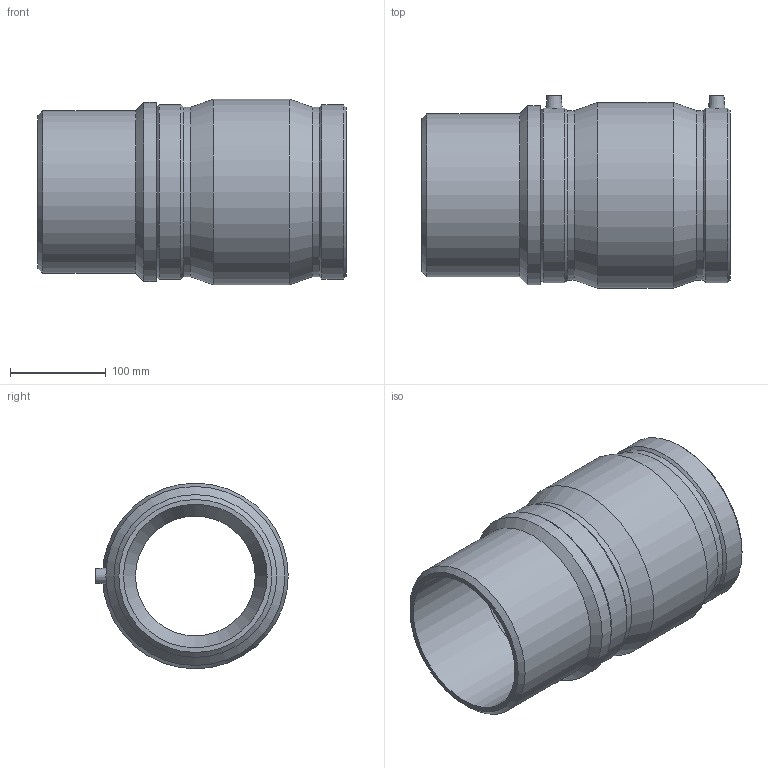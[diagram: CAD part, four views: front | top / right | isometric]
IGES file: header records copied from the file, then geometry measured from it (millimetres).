
Global section: file name: 495704160150.ipt; native system: Autodesk Inventor 2015; preprocessor: unknown; author: KIM; date: 20180502.161908; units: millimetre
Bounding box: 322 x 201 x 194 mm (x, y, z)
Volume: 3031658.9 mm3; surface area: 371577.7 mm2
Topology: 1 solids, 2 shells, 43 faces, 92 edges, 60 vertices
Faces by surface type: plane 13, cylinder 11, cone 10, revolution 9
Full cylindrical faces by diameter (mm): 4 x2, 160 x2, 170 x1, 176.889 x2, 182.36 x2, 187 x1, 194 x1
